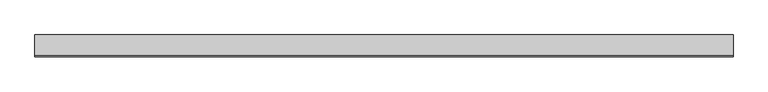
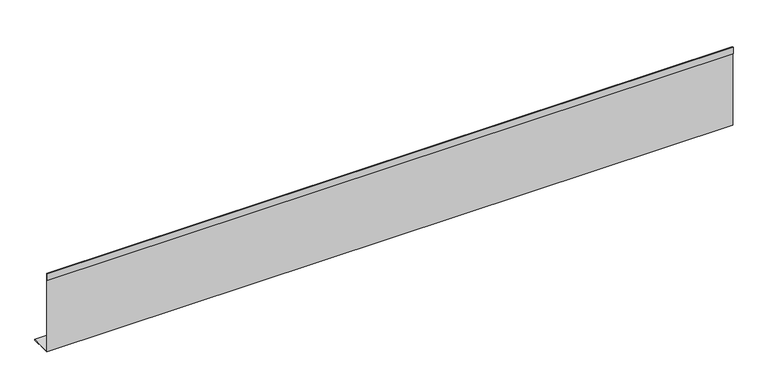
"""IFC4 building model written with IfcOpenShell, lengths in millimetres: proxy geometry, АК3_1 Обрамление внутреннего угла : АК3_1 Обрамление внутреннего угла."""

from ifc_helpers import new_model, si_unit, frame, origin, place, context, project, spatial, polyline, outline, extrude, source, transform, mapped, element, save


def generic_models_190d8ba8(model_context):
    return source(origin(), model_context, "Body", "SweptSolid", [
        extrude(outline(polyline([(65.0, 5.0), (65.0, 2.0), (45.0, 2.0), (45.0, 3.0), (64.0, 3.0), (64.0, 4.0), (4.0, 4.0), (4.0, 244.0), (3.0, 244.0), (3.0, 225.0), (2.0, 225.0), (2.0, 245.0), (5.0, 245.0), (5.0, 5.0), (65.0, 5.0)])), frame((0.0, 0.0, 0.0), z_axis=(1.0, 0.0, 0.0), x_axis=(0.0, 1.0, 0.0)), (0.0, 0.0, 1.0), 1999.5525605),
    ])


if __name__ == "__main__":
    model = new_model("IFC4")
    model_context = context("Model", 3, world=origin())
    ifc_project = project(units=[si_unit("LENGTHUNIT", "METRE", prefix="MILLI")], contexts=[model_context])
    site = spatial("IfcSite", under=ifc_project)
    building = spatial("IfcBuilding", under=site)
    placement = place(None, origin())
    generic_models_shape = generic_models_190d8ba8(model_context)
    element("IfcBuildingElementProxy", 1, Name="АК3_1 Обрамление внутреннего угла : АК3_1 Обрамление внутреннего угла", ObjectType="АК3_1 Обрамление внутреннего угла : АК3_1 Обрамление внутреннего угла", at=placement, inside=building, context=model_context, shape_type="MappedRepresentation", body=[
        mapped(generic_models_shape, transform((0.0, 0.0, 0.0), x_axis=(1.0, 0.0, 0.0), y_axis=(0.0, 1.0, 0.0), z_axis=(0.0, 0.0, 1.0))),
    ])
    save(model, "model.ifc")
